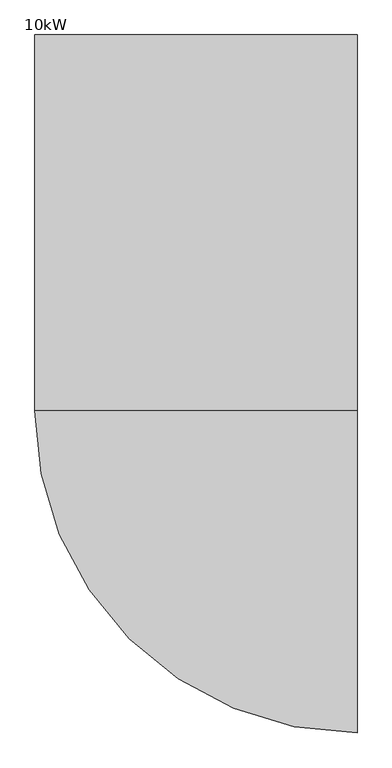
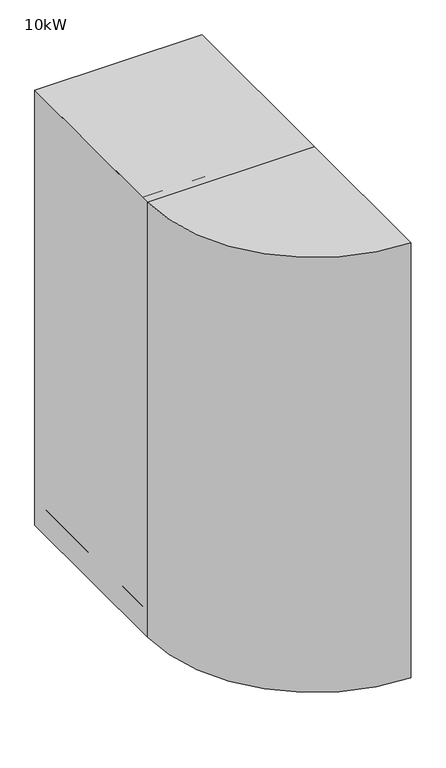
"""IFC4 building model written with IfcOpenShell, lengths in millimetres: electric distribution board geometry, 50703_太陽光発電設備_パワーコンディショナー : 10kW."""

from ifc_helpers import new_model, si_unit, point, frame_2d, origin, origin_with_axes, place, context, project, spatial, polyline, circle_curve, trimmed, segment, composite_curve, outline, extrude, faceted_brep, source, transform, mapped, element, save


def electric_distribution_board_10kw_1059af6d(model_context):
    return source(origin(), model_context, "Body", "SolidModel", [
        extrude(outline(composite_curve([segment(polyline([(300.0, -700.0), (300.0, -1300.0095225)]), True, "CONTINUOUS"), segment(trimmed(circle_curve(frame_2d((300.0095226, -700.0)), 600.0095226), [point((300.0, -1300.0095225))], [point((-300.0, -700.0))], False, "CARTESIAN"), True, "CONTINUOUS"), segment(polyline([(-300.0, -700.0), (300.0, -700.0)]), True, "CONTINUOUS")], self_intersect=False)), origin_with_axes(), (0.0, 0.0, 1.0), 1650.0),
        extrude(outline(polyline([(300.0, -700.0), (-300.0, -700.0), (-300.0, 0.0), (300.0, 0.0), (300.0, -700.0)])), origin_with_axes(), (0.0, 0.0, 1.0), 1650.0),
        faceted_brep([(300.0, -700.0, 1650.0), (300.0, -670.0, 1650.0), (-300.0, -670.0, 1650.0), (-300.0, -700.0, 1650.0), (300.0, -700.0, 100.0), (-300.0, -700.0, 100.0), (-300.0, -670.0, 100.0), (300.0, -670.0, 100.0), (-230.0, -700.0, 1020.0), (-230.0, -700.0, 900.0), (-250.0, -700.0, 900.0), (-250.0, -700.0, 1020.0), (-230.0, -680.0, 900.0), (-230.0, -680.0, 1020.0), (-250.0, -680.0, 1020.0), (-250.0, -680.0, 900.0)], [[[0, 1, 2, 3]], [[4, 5, 6, 7]], [[1, 0, 4, 7]], [[2, 1, 7, 6]], [[3, 2, 6, 5]], [[0, 3, 5, 4], [8, 9, 10, 11]], [[12, 13, 14, 15]], [[13, 12, 9, 8]], [[14, 13, 8, 11]], [[15, 14, 11, 10]], [[12, 15, 10, 9]]]),
        faceted_brep([(-300.0, 0.0, 100.0), (300.0, 0.0, 100.0), (300.0, -670.0, 100.0), (280.0, -670.0, 100.0), (280.0, -20.0, 100.0), (-280.0, -20.0, 100.0), (-280.0, -670.0, 100.0), (-300.0, -670.0, 100.0), (-300.0, -670.0, 1650.0), (-300.0, 0.0, 1650.0), (-280.0, -670.0, 1630.0), (280.0, -670.0, 1630.0), (300.0, -670.0, 1650.0), (-280.0, -20.0, 1630.0), (280.0, -20.0, 1630.0), (300.0, 0.0, 1650.0)], [[[0, 1, 2, 3, 4, 5, 6, 7]], [[0, 7, 8, 9]], [[8, 7, 6, 10, 11, 3, 2, 12]], [[6, 5, 13, 10]], [[5, 4, 14, 13]], [[4, 3, 11, 14]], [[12, 2, 1, 15]], [[15, 1, 0, 9]], [[12, 15, 9, 8]], [[11, 10, 13, 14]]]),
        extrude(outline(polyline([(300.0, -670.0), (-300.0, -670.0), (-300.0, 0.0), (300.0, 0.0), (300.0, -670.0)])), origin_with_axes(), (0.0, 0.0, 1.0), 100.0),
    ])


if __name__ == "__main__":
    model = new_model("IFC4")
    model_context = context("Model", 3, world=origin())
    ifc_project = project(units=[si_unit("LENGTHUNIT", "METRE", prefix="MILLI")], contexts=[model_context])
    site = spatial("IfcSite", under=ifc_project)
    building = spatial("IfcBuilding", under=site)
    placement = place(None, origin())
    electric_distribution_board_10kw_shape = electric_distribution_board_10kw_1059af6d(model_context)
    element("IfcElectricDistributionBoard", 1, ObjectType="50703_太陽光発電設備_パワーコンディショナー : 10kW", at=placement, inside=building, context=model_context, shape_type="MappedRepresentation", body=[
        mapped(electric_distribution_board_10kw_shape, transform((0.0, 0.0, 0.0), x_axis=(1.0, 0.0, 0.0), y_axis=(0.0, 1.0, 0.0), z_axis=(0.0, 0.0, 1.0))),
    ])
    save(model, "model.ifc")
